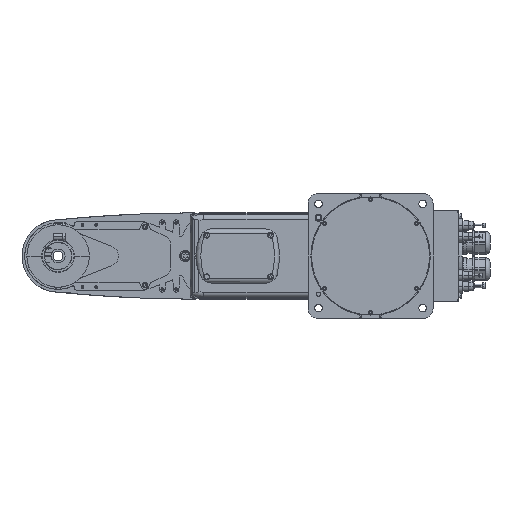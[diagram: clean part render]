
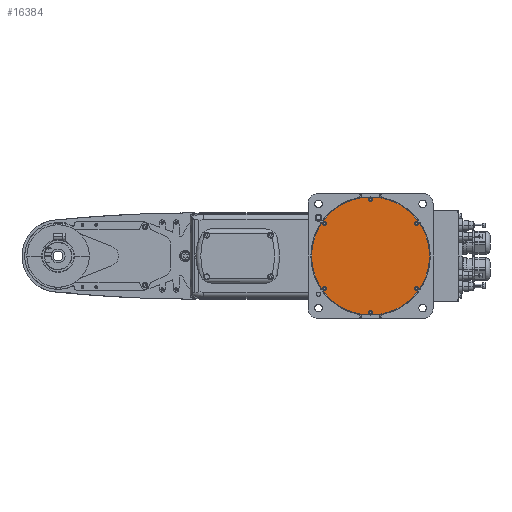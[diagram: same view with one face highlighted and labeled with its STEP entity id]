
A CAD part, front view. The second image highlights one B-rep face of the part: STEP entity #16384.
In plain terms, the highlighted planar face has unit normal (0, -1, 0).
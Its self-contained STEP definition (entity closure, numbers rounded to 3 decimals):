
#9712 = EDGE_CURVE( '', #19746, #13146, #27663, .T. );
#10668 = VERTEX_POINT( '', #28740 );
#10912 = EDGE_CURVE( '', #12426, #10668, #29013, .T. );
#12426 = VERTEX_POINT( '', #30687 );
#12636 = EDGE_CURVE( '', #13150, #23632, #30920, .T. );
#12970 = EDGE_CURVE( '', #17806, #26626, #31287, .T. );
#13146 = VERTEX_POINT( '', #31485 );
#13150 = VERTEX_POINT( '', #31489 );
#14804 = EDGE_CURVE( '', #13146, #19746, #33336, .T. );
#16246 = VERTEX_POINT( '', #34946 );
#16384 = ADVANCED_FACE( '', ( #35100, #35101, #35102, #35103, #35104, #35105, #35106 ), #35107, .T. );
#17806 = VERTEX_POINT( '', #36693 );
#18680 = EDGE_CURVE( '', #26626, #17806, #37694, .T. );
#18764 = EDGE_CURVE( '', #26662, #24366, #37790, .T. );
#19314 = EDGE_CURVE( '', #16246, #25434, #38408, .T. );
#19456 = VERTEX_POINT( '', #38563 );
#19746 = VERTEX_POINT( '', #38887 );
#19750 = EDGE_CURVE( '', #22722, #19456, #38891, .T. );
#20322 = EDGE_CURVE( '', #23632, #13150, #39516, .T. );
#20566 = EDGE_CURVE( '', #19456, #22722, #39796, .T. );
#22500 = EDGE_CURVE( '', #25434, #16246, #41940, .T. );
#22722 = VERTEX_POINT( '', #42186 );
#22886 = EDGE_CURVE( '', #10668, #12426, #42368, .T. );
#23632 = VERTEX_POINT( '', #43218 );
#23798 = EDGE_CURVE( '', #24366, #26662, #43397, .T. );
#24366 = VERTEX_POINT( '', #44017 );
#25434 = VERTEX_POINT( '', #45188 );
#26626 = VERTEX_POINT( '', #46529 );
#26662 = VERTEX_POINT( '', #46572 );
#27663 = CIRCLE( '', #48051, 2.75 );
#28740 = CARTESIAN_POINT( '', ( 0., -312., -83.75 ) );
#29013 = CIRCLE( '', #50186, 2.75 );
#30687 = CARTESIAN_POINT( '', ( 0., -312., -78.25 ) );
#30920 = CIRCLE( '', #53122, 85. );
#31287 = CIRCLE( '', #53667, 2.75 );
#31485 = CARTESIAN_POINT( '', ( 0., -312., 78.25 ) );
#31489 = CARTESIAN_POINT( '', ( 85., -312., 0. ) );
#33336 = CIRCLE( '', #56785, 2.75 );
#34946 = CARTESIAN_POINT( '', ( -66.351, -312., 43.71 ) );
#35100 = FACE_BOUND( '', #59486, .T. );
#35101 = FACE_BOUND( '', #59487, .T. );
#35102 = FACE_BOUND( '', #59488, .T. );
#35103 = FACE_BOUND( '', #59489, .T. );
#35104 = FACE_BOUND( '', #59490, .T. );
#35105 = FACE_BOUND( '', #59491, .T. );
#35106 = FACE_OUTER_BOUND( '', #59492, .T. );
#35107 = PLANE( '', #59493 );
#36693 = CARTESIAN_POINT( '', ( -66.351, -312., -43.71 ) );
#37694 = CIRCLE( '', #63634, 2.75 );
#37790 = CIRCLE( '', #63761, 2.75 );
#38408 = CIRCLE( '', #64603, 2.75 );
#38563 = CARTESIAN_POINT( '', ( 66.351, -312., -49.21 ) );
#38887 = CARTESIAN_POINT( '', ( 0., -312., 83.75 ) );
#38891 = CIRCLE( '', #65337, 2.75 );
#39516 = CIRCLE( '', #66370, 85. );
#39796 = CIRCLE( '', #66784, 2.75 );
#41940 = CIRCLE( '', #70110, 2.75 );
#42186 = CARTESIAN_POINT( '', ( 66.351, -312., -43.71 ) );
#42368 = CIRCLE( '', #70775, 2.75 );
#43218 = CARTESIAN_POINT( '', ( -85., -312., 0. ) );
#43397 = CIRCLE( '', #72397, 2.75 );
#44017 = CARTESIAN_POINT( '', ( 66.351, -312., 49.21 ) );
#45188 = CARTESIAN_POINT( '', ( -66.351, -312., 49.21 ) );
#46529 = CARTESIAN_POINT( '', ( -66.351, -312., -49.21 ) );
#46572 = CARTESIAN_POINT( '', ( 66.351, -312., 43.71 ) );
#48051 = AXIS2_PLACEMENT_3D( '', #78622, #78623, #78624 );
#50186 = AXIS2_PLACEMENT_3D( '', #80237, #80238, #80239 );
#53122 = AXIS2_PLACEMENT_3D( '', #82365, #82366, #82367 );
#53667 = AXIS2_PLACEMENT_3D( '', #82783, #82784, #82785 );
#56785 = AXIS2_PLACEMENT_3D( '', #85194, #85195, #85196 );
#59486 = EDGE_LOOP( '', ( #87176, #87177 ) );
#59487 = EDGE_LOOP( '', ( #87178, #87179 ) );
#59488 = EDGE_LOOP( '', ( #87180, #87181 ) );
#59489 = EDGE_LOOP( '', ( #87182, #87183 ) );
#59490 = EDGE_LOOP( '', ( #87184, #87185 ) );
#59491 = EDGE_LOOP( '', ( #87186, #87187 ) );
#59492 = EDGE_LOOP( '', ( #87188, #87189 ) );
#59493 = AXIS2_PLACEMENT_3D( '', #87190, #87191, #87192 );
#63634 = AXIS2_PLACEMENT_3D( '', #90323, #90324, #90325 );
#63761 = AXIS2_PLACEMENT_3D( '', #90437, #90438, #90439 );
#64603 = AXIS2_PLACEMENT_3D( '', #91178, #91179, #91180 );
#65337 = AXIS2_PLACEMENT_3D( '', #91696, #91697, #91698 );
#66370 = AXIS2_PLACEMENT_3D( '', #92344, #92345, #92346 );
#66784 = AXIS2_PLACEMENT_3D( '', #92699, #92700, #92701 );
#70110 = AXIS2_PLACEMENT_3D( '', #95158, #95159, #95160 );
#70775 = AXIS2_PLACEMENT_3D( '', #95637, #95638, #95639 );
#72397 = AXIS2_PLACEMENT_3D( '', #96916, #96917, #96918 );
#78622 = CARTESIAN_POINT( '', ( 0., -312., 81. ) );
#78623 = DIRECTION( '', ( 0., 1., 0. ) );
#78624 = DIRECTION( '', ( 0., 0., 1. ) );
#80237 = CARTESIAN_POINT( '', ( 0., -312., -81. ) );
#80238 = DIRECTION( '', ( 0., 1., 0. ) );
#80239 = DIRECTION( '', ( 0., 0., 1. ) );
#82365 = CARTESIAN_POINT( '', ( 0., -312., 0. ) );
#82366 = DIRECTION( '', ( 0., -1., 0. ) );
#82367 = DIRECTION( '', ( 1., 0., 0. ) );
#82783 = CARTESIAN_POINT( '', ( -66.351, -312., -46.46 ) );
#82784 = DIRECTION( '', ( 0., 1., 0. ) );
#82785 = DIRECTION( '', ( 0., 0., 1. ) );
#85194 = CARTESIAN_POINT( '', ( 0., -312., 81. ) );
#85195 = DIRECTION( '', ( 0., 1., 0. ) );
#85196 = DIRECTION( '', ( 0., 0., 1. ) );
#87176 = ORIENTED_EDGE( '', *, *, #9712, .T. );
#87177 = ORIENTED_EDGE( '', *, *, #14804, .T. );
#87178 = ORIENTED_EDGE( '', *, *, #23798, .T. );
#87179 = ORIENTED_EDGE( '', *, *, #18764, .T. );
#87180 = ORIENTED_EDGE( '', *, *, #19750, .T. );
#87181 = ORIENTED_EDGE( '', *, *, #20566, .T. );
#87182 = ORIENTED_EDGE( '', *, *, #22500, .T. );
#87183 = ORIENTED_EDGE( '', *, *, #19314, .T. );
#87184 = ORIENTED_EDGE( '', *, *, #12970, .T. );
#87185 = ORIENTED_EDGE( '', *, *, #18680, .T. );
#87186 = ORIENTED_EDGE( '', *, *, #10912, .T. );
#87187 = ORIENTED_EDGE( '', *, *, #22886, .T. );
#87188 = ORIENTED_EDGE( '', *, *, #12636, .T. );
#87189 = ORIENTED_EDGE( '', *, *, #20322, .T. );
#87190 = CARTESIAN_POINT( '', ( 42.5, -312., 0. ) );
#87191 = DIRECTION( '', ( 0., -1., 0. ) );
#87192 = DIRECTION( '', ( 1., 0., 0. ) );
#90323 = CARTESIAN_POINT( '', ( -66.351, -312., -46.46 ) );
#90324 = DIRECTION( '', ( 0., 1., 0. ) );
#90325 = DIRECTION( '', ( 0., 0., 1. ) );
#90437 = CARTESIAN_POINT( '', ( 66.351, -312., 46.46 ) );
#90438 = DIRECTION( '', ( 0., 1., 0. ) );
#90439 = DIRECTION( '', ( 0., 0., 1. ) );
#91178 = CARTESIAN_POINT( '', ( -66.351, -312., 46.46 ) );
#91179 = DIRECTION( '', ( 0., 1., 0. ) );
#91180 = DIRECTION( '', ( 0., 0., 1. ) );
#91696 = CARTESIAN_POINT( '', ( 66.351, -312., -46.46 ) );
#91697 = DIRECTION( '', ( 0., 1., 0. ) );
#91698 = DIRECTION( '', ( 0., 0., 1. ) );
#92344 = CARTESIAN_POINT( '', ( 0., -312., 0. ) );
#92345 = DIRECTION( '', ( 0., -1., 0. ) );
#92346 = DIRECTION( '', ( 1., 0., 0. ) );
#92699 = CARTESIAN_POINT( '', ( 66.351, -312., -46.46 ) );
#92700 = DIRECTION( '', ( 0., 1., 0. ) );
#92701 = DIRECTION( '', ( 0., 0., 1. ) );
#95158 = CARTESIAN_POINT( '', ( -66.351, -312., 46.46 ) );
#95159 = DIRECTION( '', ( 0., 1., 0. ) );
#95160 = DIRECTION( '', ( 0., 0., 1. ) );
#95637 = CARTESIAN_POINT( '', ( 0., -312., -81. ) );
#95638 = DIRECTION( '', ( 0., 1., 0. ) );
#95639 = DIRECTION( '', ( 0., 0., 1. ) );
#96916 = CARTESIAN_POINT( '', ( 66.351, -312., 46.46 ) );
#96917 = DIRECTION( '', ( 0., 1., 0. ) );
#96918 = DIRECTION( '', ( 0., 0., 1. ) );
